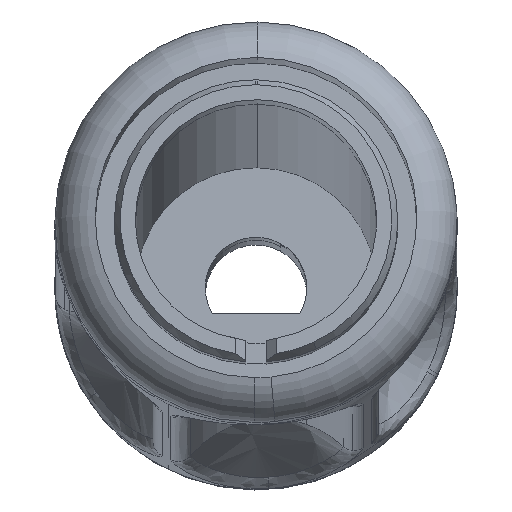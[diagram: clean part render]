
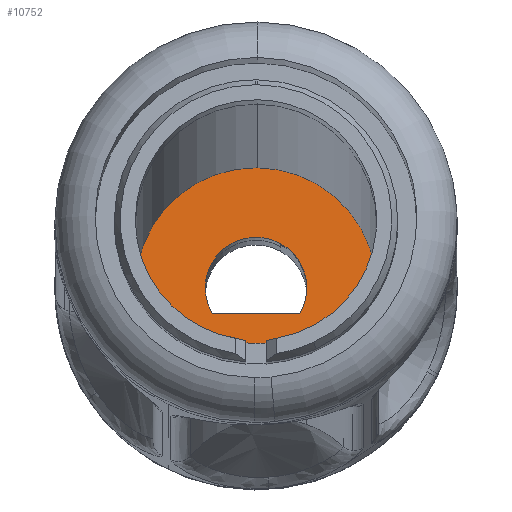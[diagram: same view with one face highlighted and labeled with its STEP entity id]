
A CAD part, left-side view. The second image highlights one B-rep face of the part: STEP entity #10752.
In plain terms, the highlighted planar face has unit normal (-0.995, 0, 0.096).
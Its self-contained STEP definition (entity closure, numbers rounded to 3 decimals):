
#859=CARTESIAN_POINT('Axis2P3D Location',(-172.922,-440.5,587.774)) ;
#863=CARTESIAN_POINT('Vertex',(-174.072,-440.384,575.83)) ;
#865=CARTESIAN_POINT('Vertex',(-171.772,-440.616,599.718)) ;
#885=CARTESIAN_POINT('Axis2P3D Location',(-172.922,-440.5,587.774)) ;
#10683=CARTESIAN_POINT('Vertex',(-173.158,-444.908,585.321)) ;
#10686=CARTESIAN_POINT('Axis2P3D Location',(-172.922,-440.5,587.774)) ;
#10690=CARTESIAN_POINT('Vertex',(-172.499,-442.964,592.162)) ;
#10705=CARTESIAN_POINT('Axis2P3D Location',(-173.485,-423.585,581.922)) ;
#10715=CARTESIAN_POINT('Control Point',(-173.158,-444.908,585.321)) ;
#10716=CARTESIAN_POINT('Control Point',(-173.162,-444.883,585.276)) ;
#10717=CARTESIAN_POINT('Control Point',(-173.167,-444.856,585.231)) ;
#10718=CARTESIAN_POINT('Control Point',(-173.171,-444.829,585.186)) ;
#10719=CARTESIAN_POINT('Vertex',(-173.171,-444.829,585.186)) ;
#10723=CARTESIAN_POINT('Control Point',(-173.171,-436.171,585.186)) ;
#10724=CARTESIAN_POINT('Control Point',(-173.171,-444.829,585.186)) ;
#10725=CARTESIAN_POINT('Vertex',(-173.171,-436.171,585.186)) ;
#10729=CARTESIAN_POINT('Control Point',(-173.171,-436.171,585.186)) ;
#10730=CARTESIAN_POINT('Control Point',(-173.062,-435.488,586.318)) ;
#10731=CARTESIAN_POINT('Control Point',(-172.93,-435.203,587.692)) ;
#10732=CARTESIAN_POINT('Control Point',(-172.797,-435.445,589.074)) ;
#10733=CARTESIAN_POINT('Control Point',(-172.686,-436.092,590.227)) ;
#10734=CARTESIAN_POINT('Vertex',(-172.686,-436.092,590.227)) ;
#10738=CARTESIAN_POINT('Control Point',(-172.686,-436.092,590.227)) ;
#10739=CARTESIAN_POINT('Control Point',(-172.553,-436.866,591.605)) ;
#10740=CARTESIAN_POINT('Control Point',(-172.449,-438.183,592.683)) ;
#10741=CARTESIAN_POINT('Control Point',(-172.403,-439.89,593.164)) ;
#10742=CARTESIAN_POINT('Control Point',(-172.425,-441.579,592.932)) ;
#10743=CARTESIAN_POINT('Control Point',(-172.499,-442.964,592.162)) ;
#860=DIRECTION('Axis2P3D Direction',(-0.995,0.,0.096)) ;
#886=DIRECTION('Axis2P3D Direction',(-0.995,0.,0.096)) ;
#10687=DIRECTION('Axis2P3D Direction',(0.995,0.,-0.096)) ;
#10706=DIRECTION('Axis2P3D Direction',(0.995,0.,-0.096)) ;
#10707=DIRECTION('Axis2P3D XDirection',(0.091,0.328,0.94)) ;
#861=AXIS2_PLACEMENT_3D('Circle Axis2P3D',#859,#860,$) ;
#887=AXIS2_PLACEMENT_3D('Circle Axis2P3D',#885,#886,$) ;
#10688=AXIS2_PLACEMENT_3D('Circle Axis2P3D',#10686,#10687,$) ;
#10708=AXIS2_PLACEMENT_3D('Plane Axis2P3D',#10705,#10706,#10707) ;
#10711=ORIENTED_EDGE('',*,*,#889,.F.) ;
#10712=ORIENTED_EDGE('',*,*,#867,.F.) ;
#10746=ORIENTED_EDGE('',*,*,#10721,.F.) ;
#10747=ORIENTED_EDGE('',*,*,#10727,.F.) ;
#10748=ORIENTED_EDGE('',*,*,#10736,.T.) ;
#10749=ORIENTED_EDGE('',*,*,#10744,.T.) ;
#10750=ORIENTED_EDGE('',*,*,#10692,.T.) ;
#10751=FACE_BOUND('',#10745,.T.) ;
#10752=ADVANCED_FACE('A6\X2\6276624B624B8F6E\X0\',(#10713,#10751),#10709,.F.) ;
#10714=B_SPLINE_CURVE_WITH_KNOTS('',3,(#10715,#10716,#10717,#10718),.UNSPECIFIED.,.F.,.U.,(4,4),(12.196,12.353),.UNSPECIFIED.) ;
#10722=B_SPLINE_CURVE_WITH_KNOTS('',1,(#10723,#10724),.UNSPECIFIED.,.F.,.U.,(2,2),(-4.329,4.329),.UNSPECIFIED.) ;
#10728=B_SPLINE_CURVE_WITH_KNOTS('',4,(#10729,#10730,#10731,#10732,#10733),.UNSPECIFIED.,.F.,.U.,(5,5),(22.755,28.061),.UNSPECIFIED.) ;
#10737=B_SPLINE_CURVE_WITH_KNOTS('',5,(#10738,#10739,#10740,#10741,#10742,#10743),.UNSPECIFIED.,.F.,.U.,(6,6),(28.061,35.993),.UNSPECIFIED.) ;
#862=CIRCLE('generated circle',#861,12.) ;
#888=CIRCLE('generated circle',#887,12.) ;
#10689=CIRCLE('generated circle',#10688,5.05) ;
#867=EDGE_CURVE('',#864,#866,#862,.F.) ;
#889=EDGE_CURVE('',#866,#864,#888,.F.) ;
#10692=EDGE_CURVE('',#10691,#10684,#10689,.T.) ;
#10721=EDGE_CURVE('',#10720,#10684,#10714,.F.) ;
#10727=EDGE_CURVE('',#10726,#10720,#10722,.T.) ;
#10736=EDGE_CURVE('',#10726,#10735,#10728,.T.) ;
#10744=EDGE_CURVE('',#10735,#10691,#10737,.T.) ;
#10710=EDGE_LOOP('',(#10711,#10712)) ;
#10745=EDGE_LOOP('',(#10746,#10747,#10748,#10749,#10750)) ;
#10713=FACE_OUTER_BOUND('',#10710,.T.) ;
#10709=PLANE('Plane',#10708) ;
#864=VERTEX_POINT('',#863) ;
#866=VERTEX_POINT('',#865) ;
#10684=VERTEX_POINT('',#10683) ;
#10691=VERTEX_POINT('',#10690) ;
#10720=VERTEX_POINT('',#10719) ;
#10726=VERTEX_POINT('',#10725) ;
#10735=VERTEX_POINT('',#10734) ;
